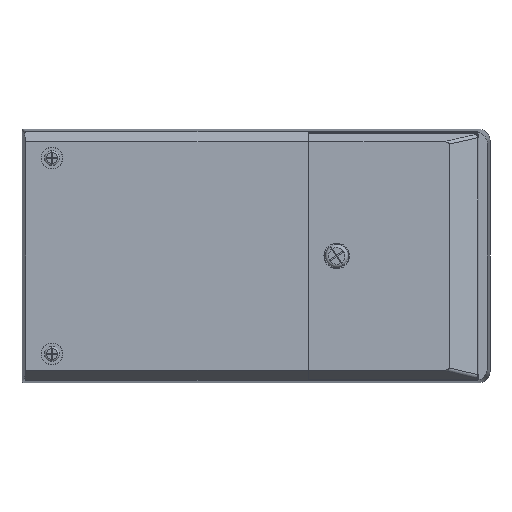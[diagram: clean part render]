
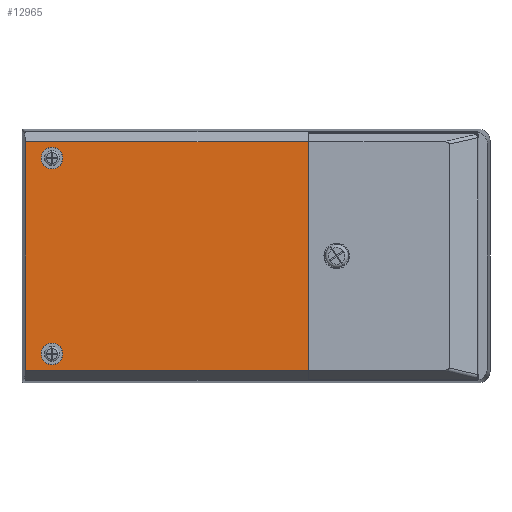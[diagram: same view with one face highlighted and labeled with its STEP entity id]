
A CAD part, front view. The second image highlights one B-rep face of the part: STEP entity #12965.
In plain terms, the highlighted planar face has unit normal (0, -1, 0).
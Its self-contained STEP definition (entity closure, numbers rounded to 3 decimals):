
#284 = CARTESIAN_POINT ( 'NONE',  ( -52.1, -16.5, 27.75 ) ) ;
#630 = ORIENTED_EDGE ( 'NONE', *, *, #3444, .F. ) ;
#913 = EDGE_LOOP ( 'NONE', ( #16728, #18629, #4729, #630 ) ) ;
#1128 = CARTESIAN_POINT ( 'NONE',  ( -59.85, -16.5, -29.15 ) ) ;
#1163 = DIRECTION ( 'NONE',  ( 0., -1., 0. ) ) ;
#1453 = LINE ( 'NONE', #10715, #19618 ) ;
#1635 = AXIS2_PLACEMENT_3D ( 'NONE', #11727, #1163, #13463 ) ;
#2380 = CARTESIAN_POINT ( 'NONE',  ( -58.841, -16.5, 0. ) ) ;
#2558 = AXIS2_PLACEMENT_3D ( 'NONE', #13666, #3159, #15426 ) ;
#2582 = VERTEX_POINT ( 'NONE', #13373 ) ;
#2915 = DIRECTION ( 'NONE',  ( 1., 0., 0. ) ) ;
#3001 = CARTESIAN_POINT ( 'NONE',  ( -58.841, -16.5, -29.15 ) ) ;
#3159 = DIRECTION ( 'NONE',  ( 0., -1., 0. ) ) ;
#3265 = VERTEX_POINT ( 'NONE', #15902 ) ;
#3444 = EDGE_CURVE ( 'NONE', #4914, #10182, #5034, .T. ) ;
#3623 = DIRECTION ( 'NONE',  ( 0., -1., 0. ) ) ;
#3709 = CARTESIAN_POINT ( 'NONE',  ( 0., -16.5, 0. ) ) ;
#4170 = DIRECTION ( 'NONE',  ( 0., 0., 1. ) ) ;
#4540 = FACE_BOUND ( 'NONE', #10623, .T. ) ;
#4729 = ORIENTED_EDGE ( 'NONE', *, *, #19902, .F. ) ;
#4914 = VERTEX_POINT ( 'NONE', #3001 ) ;
#5034 = LINE ( 'NONE', #2380, #13242 ) ;
#5335 = CARTESIAN_POINT ( 'NONE',  ( -52.1, -16.5, -25. ) ) ;
#5503 = DIRECTION ( 'NONE',  ( 0., 1., 0. ) ) ;
#6726 = EDGE_CURVE ( 'NONE', #2582, #18505, #20241, .T. ) ;
#7006 = ORIENTED_EDGE ( 'NONE', *, *, #22241, .F. ) ;
#7100 = DIRECTION ( 'NONE',  ( 0., 0., -1. ) ) ;
#7909 = AXIS2_PLACEMENT_3D ( 'NONE', #14133, #3623, #15900 ) ;
#8166 = EDGE_CURVE ( 'NONE', #3265, #17865, #17905, .T. ) ;
#8445 = CARTESIAN_POINT ( 'NONE',  ( -58.841, -16.5, 29.15 ) ) ;
#9025 = DIRECTION ( 'NONE',  ( 0., 0., -1. ) ) ;
#9230 = FACE_OUTER_BOUND ( 'NONE', #913, .T. ) ;
#9257 = CARTESIAN_POINT ( 'NONE',  ( 13.35, -16.5, 29.15 ) ) ;
#9656 = EDGE_CURVE ( 'NONE', #18505, #2582, #17558, .T. ) ;
#10178 = CARTESIAN_POINT ( 'NONE',  ( 13.35, -16.5, -29.15 ) ) ;
#10182 = VERTEX_POINT ( 'NONE', #8445 ) ;
#10433 = DIRECTION ( 'NONE',  ( 1., 0., 0. ) ) ;
#10623 = EDGE_LOOP ( 'NONE', ( #16244, #7006 ) ) ;
#10715 = CARTESIAN_POINT ( 'NONE',  ( 13.35, -16.5, 37.5 ) ) ;
#10794 = VERTEX_POINT ( 'NONE', #10178 ) ;
#11409 = VECTOR ( 'NONE', #2915, 1000. ) ;
#11727 = CARTESIAN_POINT ( 'NONE',  ( -52.1, -16.5, 25. ) ) ;
#11945 = LINE ( 'NONE', #1128, #11409 ) ;
#12965 = ADVANCED_FACE ( 'NONE', ( #22690, #4540, #9230 ), #19443, .F. ) ;
#13242 = VECTOR ( 'NONE', #4170, 1000. ) ;
#13329 = EDGE_CURVE ( 'NONE', #4914, #10794, #11945, .T. ) ;
#13373 = CARTESIAN_POINT ( 'NONE',  ( -52.1, -16.5, -22.25 ) ) ;
#13463 = DIRECTION ( 'NONE',  ( 0., 0., -1. ) ) ;
#13666 = CARTESIAN_POINT ( 'NONE',  ( -52.1, -16.5, -25. ) ) ;
#13881 = CARTESIAN_POINT ( 'NONE',  ( -52.1, -16.5, -27.75 ) ) ;
#14133 = CARTESIAN_POINT ( 'NONE',  ( -52.1, -16.5, 25. ) ) ;
#14213 = ORIENTED_EDGE ( 'NONE', *, *, #6726, .F. ) ;
#14272 = EDGE_CURVE ( 'NONE', #14355, #10794, #1453, .T. ) ;
#14355 = VERTEX_POINT ( 'NONE', #9257 ) ;
#14407 = EDGE_LOOP ( 'NONE', ( #19274, #14213 ) ) ;
#15426 = DIRECTION ( 'NONE',  ( 0., 0., -1. ) ) ;
#15900 = DIRECTION ( 'NONE',  ( 0., 0., -1. ) ) ;
#15902 = CARTESIAN_POINT ( 'NONE',  ( -52.1, -16.5, 22.25 ) ) ;
#16244 = ORIENTED_EDGE ( 'NONE', *, *, #8166, .F. ) ;
#16728 = ORIENTED_EDGE ( 'NONE', *, *, #13329, .T. ) ;
#17479 = LINE ( 'NONE', #19158, #18031 ) ;
#17558 = CIRCLE ( 'NONE', #2558, 2.75 ) ;
#17601 = DIRECTION ( 'NONE',  ( 0., -1., 0. ) ) ;
#17753 = DIRECTION ( 'NONE',  ( 0., 0., 1. ) ) ;
#17865 = VERTEX_POINT ( 'NONE', #284 ) ;
#17905 = CIRCLE ( 'NONE', #1635, 2.75 ) ;
#18031 = VECTOR ( 'NONE', #10433, 1000. ) ;
#18505 = VERTEX_POINT ( 'NONE', #13881 ) ;
#18629 = ORIENTED_EDGE ( 'NONE', *, *, #14272, .F. ) ;
#19158 = CARTESIAN_POINT ( 'NONE',  ( -59.85, -16.5, 29.15 ) ) ;
#19274 = ORIENTED_EDGE ( 'NONE', *, *, #9656, .F. ) ;
#19443 = PLANE ( 'NONE',  #22387 ) ;
#19618 = VECTOR ( 'NONE', #9025, 1000. ) ;
#19902 = EDGE_CURVE ( 'NONE', #10182, #14355, #17479, .T. ) ;
#20095 = CIRCLE ( 'NONE', #7909, 2.75 ) ;
#20241 = CIRCLE ( 'NONE', #20894, 2.75 ) ;
#20894 = AXIS2_PLACEMENT_3D ( 'NONE', #5335, #17601, #7100 ) ;
#22241 = EDGE_CURVE ( 'NONE', #17865, #3265, #20095, .T. ) ;
#22387 = AXIS2_PLACEMENT_3D ( 'NONE', #3709, #5503, #17753 ) ;
#22690 = FACE_BOUND ( 'NONE', #14407, .T. ) ;
